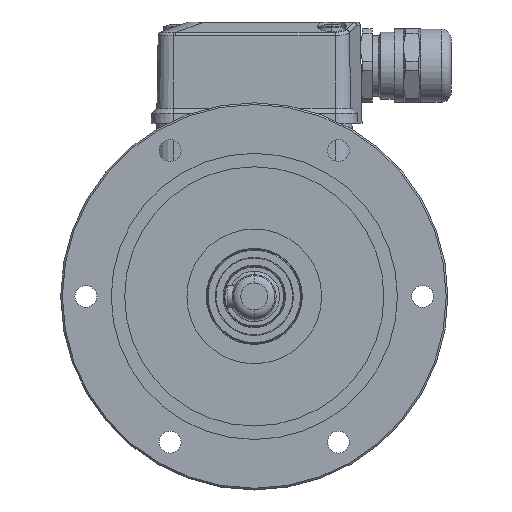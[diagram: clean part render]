
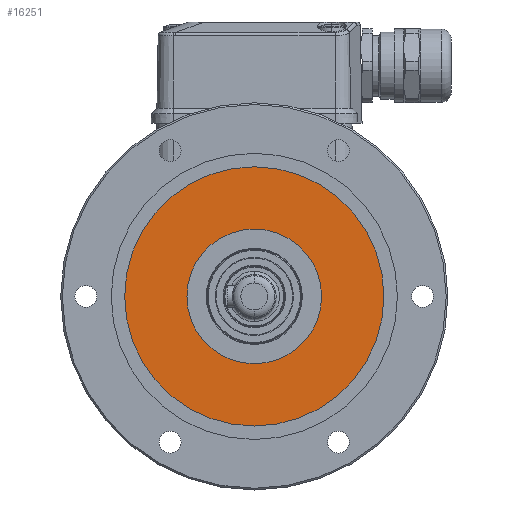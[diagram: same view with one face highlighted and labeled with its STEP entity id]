
A CAD part, left-side view. The second image highlights one B-rep face of the part: STEP entity #16251.
In plain terms, the highlighted planar face has unit normal (-1, 0, 0).
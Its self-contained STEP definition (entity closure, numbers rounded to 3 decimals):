
#2172 = FACE_OUTER_BOUND ( 'NONE', #16254, .T. ) ;
#2173 = FACE_BOUND ( 'NONE', #16287, .T. ) ;
#2182 = DIRECTION ( 'NONE',  ( 0., 0., 1. ) ) ;
#2183 = DIRECTION ( 'NONE',  ( -1., 0., 0. ) ) ;
#2184 = CARTESIAN_POINT ( 'NONE',  ( 4., 0., 0. ) ) ;
#2185 = AXIS2_PLACEMENT_3D ( 'NONE', #2184, #2183, #2182 ) ;
#2186 = CIRCLE ( 'NONE', #2185, 20. ) ;
#2226 = DIRECTION ( 'NONE',  ( 0., 0., -1. ) ) ;
#2227 = DIRECTION ( 'NONE',  ( 1., 0., 0. ) ) ;
#2228 = CARTESIAN_POINT ( 'NONE',  ( 4., 20., 0. ) ) ;
#2229 = AXIS2_PLACEMENT_3D ( 'NONE', #2228, #2227, #2226 ) ;
#2230 = PLANE ( 'NONE',  #2229 ) ;
#2273 = DIRECTION ( 'NONE',  ( 0., 0., 1. ) ) ;
#2274 = DIRECTION ( 'NONE',  ( -1., 0., 0. ) ) ;
#2275 = CARTESIAN_POINT ( 'NONE',  ( 4., 0., 0. ) ) ;
#2276 = AXIS2_PLACEMENT_3D ( 'NONE', #2275, #2274, #2273 ) ;
#2277 = CIRCLE ( 'NONE', #2276, 38.5 ) ;
#2539 = DIRECTION ( 'NONE',  ( 0., 0., 1. ) ) ;
#2540 = DIRECTION ( 'NONE',  ( -1., 0., 0. ) ) ;
#2541 = CARTESIAN_POINT ( 'NONE',  ( 4., 0., 0. ) ) ;
#2542 = AXIS2_PLACEMENT_3D ( 'NONE', #2541, #2540, #2539 ) ;
#2543 = CIRCLE ( 'NONE', #2542, 20. ) ;
#2598 = DIRECTION ( 'NONE',  ( 0., 0., 1. ) ) ;
#2599 = DIRECTION ( 'NONE',  ( -1., 0., 0. ) ) ;
#2600 = CARTESIAN_POINT ( 'NONE',  ( 4., 0., 0. ) ) ;
#2601 = AXIS2_PLACEMENT_3D ( 'NONE', #2600, #2599, #2598 ) ;
#2602 = CIRCLE ( 'NONE', #2601, 38.5 ) ;
#2665 = CARTESIAN_POINT ( 'NONE',  ( 4., 0., 20. ) ) ;
#2806 = CARTESIAN_POINT ( 'NONE',  ( 4., 0., 38.5 ) ) ;
#2807 = CARTESIAN_POINT ( 'NONE',  ( 4., 0., -38.5 ) ) ;
#2943 = CARTESIAN_POINT ( 'NONE',  ( 4., 0., -20. ) ) ;
#16243 = EDGE_CURVE ( 'NONE', #16477, #16394, #2186, .T. ) ;
#16246 = ORIENTED_EDGE ( 'NONE', *, *, #16243, .F. ) ;
#16251 = ADVANCED_FACE ( 'NONE', ( #2173, #2172 ), #2230, .F. ) ;
#16253 = ORIENTED_EDGE ( 'NONE', *, *, #16377, .F. ) ;
#16254 = EDGE_LOOP ( 'NONE', ( #16312, #16256 ) ) ;
#16255 = EDGE_CURVE ( 'NONE', #16437, #16436, #2277, .T. ) ;
#16256 = ORIENTED_EDGE ( 'NONE', *, *, #16382, .T. ) ;
#16287 = EDGE_LOOP ( 'NONE', ( #16253, #16246 ) ) ;
#16312 = ORIENTED_EDGE ( 'NONE', *, *, #16255, .T. ) ;
#16377 = EDGE_CURVE ( 'NONE', #16394, #16477, #2543, .T. ) ;
#16382 = EDGE_CURVE ( 'NONE', #16436, #16437, #2602, .T. ) ;
#16394 = VERTEX_POINT ( 'NONE', #2665 ) ;
#16436 = VERTEX_POINT ( 'NONE', #2807 ) ;
#16437 = VERTEX_POINT ( 'NONE', #2806 ) ;
#16477 = VERTEX_POINT ( 'NONE', #2943 ) ;
